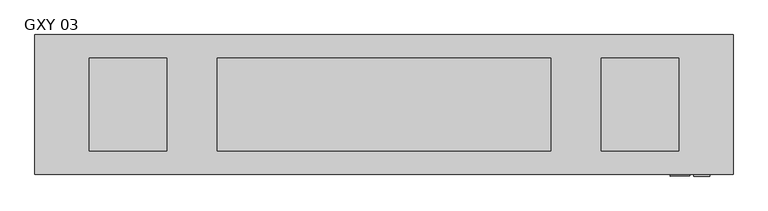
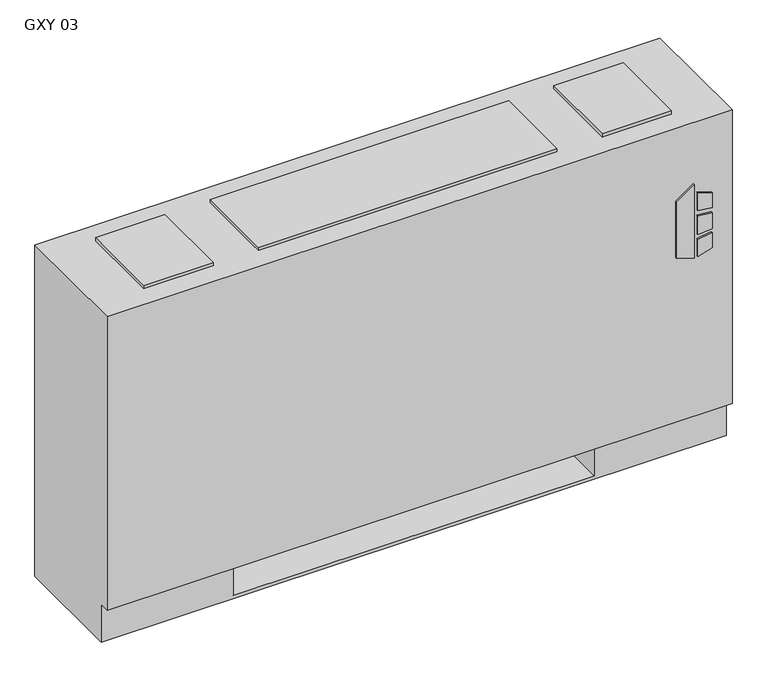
"""IFC4 building model written with IfcOpenShell, lengths in millimetres: proxy geometry, Vertical_Fan_Coil_Unit_-_GXY_-_IEC_-_2-Pipe_TS-FR_LH_2022 : GXY 03."""

from ifc_helpers import new_model, si_unit, point, frame, frame_2d, origin, place, context, project, spatial, polyline, circle_curve, trimmed, segment, composite_curve, outline, extrude, source, transform, mapped, element, save
from ifc_brep_helpers import plane_surface, revolved_surface, advanced_brep


def gxy_03_8c3c5e44(model_context):
    return source(origin(), model_context, "Body", "SolidModel", [
        extrude(outline(polyline([(391.6086829, 620.7868862), (381.6606126, 652.9602728), (523.831537, 652.9602728), (500.8095309, 620.7868862), (391.6086829, 620.7868862)])), frame((0.0, 12.7, 0.0), z_axis=(0.0, 1.0, 0.0), x_axis=(0.0, 0.0, 1.0)), (0.0, 0.0, 1.0), 3.175),
        extrude(outline(polyline([(470.6079683, 659.7186058), (467.4055757, 685.8), (496.6344168, 685.8), (504.6988318, 659.7186058), (470.6079683, 659.7186058)])), frame((0.0, 12.7, 0.0), z_axis=(0.0, 1.0, 0.0), x_axis=(0.0, 0.0, 1.0)), (0.0, 0.0, 1.0), 3.175),
        extrude(outline(polyline([(418.7444414, 685.8), (415.0789404, 659.7186058), (381.6606126, 659.7186058), (390.2948498, 685.8), (418.7444414, 685.8)])), frame((0.0, 12.7, 0.0), z_axis=(0.0, 1.0, 0.0), x_axis=(0.0, 0.0, 1.0)), (0.0, 0.0, 1.0), 3.175),
        extrude(outline(polyline([(458.0596028, 685.8), (460.3414292, 659.7186058), (424.4038806, 659.7186058), (427.1451456, 685.8), (458.0596028, 685.8)])), frame((0.0, 12.7, 0.0), z_axis=(0.0, 1.0, 0.0), x_axis=(0.0, 0.0, 1.0)), (0.0, 0.0, 1.0), 3.175),
        extrude(outline(polyline([(482.6, 81.534), (482.6, 223.266), (603.25, 223.266), (603.25, 81.534), (482.6, 81.534)])), frame((0.0, 0.0, 327.025), z_axis=(0.0, 0.0, 1.0), x_axis=(1.0, 0.0, 0.0)), (0.0, 0.0, 1.0), 260.35),
        extrude(outline(polyline([(-203.2, 206.375), (-203.2, 53.975), (-330.2, 53.975), (-330.2, 206.375), (-203.2, 206.375)])), frame((0.0, 0.0, 641.35), z_axis=(0.0, 0.0, 1.0), x_axis=(1.0, 0.0, 0.0)), (0.0, 0.0, 1.0), 6.35),
        extrude(outline(polyline([(635.0, 206.375), (635.0, 53.975), (508.0, 53.975), (508.0, 206.375), (635.0, 206.375)])), frame((0.0, 0.0, 641.35), z_axis=(0.0, 0.0, 1.0), x_axis=(1.0, 0.0, 0.0)), (0.0, 0.0, 1.0), 6.35),
        extrude(outline(composite_curve([segment(trimmed(circle_curve(frame_2d((78.9432, 398.5514)), 7.9375), [point((78.9432, 406.4889))], [point((78.9432, 390.6139))], False, "CARTESIAN"), True, "CONTINUOUS"), segment(trimmed(circle_curve(frame_2d((78.9432, 398.5514)), 7.9375), [point((78.9432, 390.6139))], [point((78.9432, 406.4889))], False, "CARTESIAN"), True, "CONTINUOUS")], self_intersect=False)), frame((-228.6, 0.0, 0.0), z_axis=(1.0, 0.0, 0.0), x_axis=(0.0, 1.0, 0.0)), (0.0, 0.0, 1.0), 50.8),
        extrude(outline(composite_curve([segment(trimmed(circle_curve(frame_2d((155.9052, 537.3878)), 7.9375), [point((155.9052, 545.3253))], [point((155.9052, 529.4503))], False, "CARTESIAN"), True, "CONTINUOUS"), segment(trimmed(circle_curve(frame_2d((155.9052, 537.3878)), 7.9375), [point((155.9052, 529.4503))], [point((155.9052, 545.3253))], False, "CARTESIAN"), True, "CONTINUOUS")], self_intersect=False)), frame((-228.6, 0.0, 0.0), z_axis=(1.0, 0.0, 0.0), x_axis=(0.0, 1.0, 0.0)), (0.0, 0.0, 1.0), 50.8),
        advanced_brep(
        [(723.9, 244.475, 641.35), (-419.1, 244.475, 641.35), (-419.1, 15.875, 641.35), (723.9, 15.875, 641.35), (-419.1, 244.475, 0.0), (723.9, 244.475, 0.0), (723.9, 34.925, 0.0), (-419.1, 34.925, 0.0), (482.6, 244.475, 73.025), (711.2, 244.475, 73.025), (711.2, 244.475, 628.65), (482.6, 244.475, 628.65), (482.6, 244.475, 418.0400565), (511.175, 244.475, 418.0400565), (511.175, 244.475, 388.4099435), (482.6, 244.475, 388.4099435), (482.6, 244.475, 290.5125), (511.175, 244.475, 290.5125), (511.175, 244.475, 261.9375), (482.6, 244.475, 261.9375), (482.6, 244.475, 119.0625), (511.175, 244.475, 119.0625), (511.175, 244.475, 90.4875), (482.6, 244.475, 90.4875), (-177.8, 244.475, 628.65), (-406.4, 244.475, 628.65), (-406.4, 244.475, 73.025), (-177.8, 244.475, 73.025), (-177.8, 244.475, 90.4875), (-206.375, 244.475, 90.4875), (-206.375, 244.475, 119.0625), (-177.8, 244.475, 119.0625), (-177.8, 244.475, 261.9375), (-206.375, 244.475, 261.9375), (-206.375, 244.475, 290.5125), (-177.8, 244.475, 290.5125), (-177.8, 244.475, 388.4099435), (-206.375, 244.475, 388.4099435), (-206.375, 244.475, 418.0400565), (-177.8, 244.475, 418.0400565), (500.8626, 244.475, 104.775), (489.7374, 244.475, 104.775), (500.8626, 244.475, 403.225), (489.7374, 244.475, 403.225), (500.8626, 244.475, 276.225), (489.7374, 244.475, 276.225), (-184.9374, 244.475, 104.775), (-196.0626, 244.475, 104.775), (-184.9374, 244.475, 276.225), (-196.0626, 244.475, 276.225), (-184.9374, 244.475, 403.225), (-196.0626, 244.475, 403.225), (-419.1, 34.925, 73.025), (-419.1, 15.875, 73.025), (723.9, 15.875, 73.025), (723.9, 34.925, 73.025), (-177.8, 34.925, 73.025), (-177.8, 219.075, 73.025), (482.6, 219.075, 73.025), (482.6, 34.925, 73.025), (482.6, 34.925, 6.35), (-177.8, 34.925, 6.35), (482.6, 41.275, 628.65), (711.2, 41.275, 628.65), (711.2, 41.275, 73.025), (482.6, 41.275, 73.025), (-177.8, 41.275, 628.65), (-177.8, 41.275, 73.025), (-406.4, 41.275, 73.025), (-406.4, 41.275, 628.65), (482.6, 219.075, 73.025), (482.6, 238.125, 90.4875), (482.6, 238.125, 119.0625), (482.6, 238.125, 261.9375), (482.6, 238.125, 290.5125), (482.6, 238.125, 388.4099435), (482.6, 238.125, 418.0400565), (-177.8, 219.075, 73.025), (-177.8, 238.125, 418.0400565), (-177.8, 238.125, 388.4099435), (-177.8, 238.125, 290.5125), (-177.8, 238.125, 261.9375), (-177.8, 238.125, 119.0625), (-177.8, 238.125, 90.4875), (-177.8, 219.075, 6.35), (482.6, 219.075, 6.35), (511.175, 238.125, 90.4875), (511.175, 238.125, 119.0625), (489.7374, 238.125, 104.775), (500.8626, 238.125, 104.775), (511.175, 238.125, 261.9375), (511.175, 238.125, 290.5125), (489.7374, 238.125, 276.225), (500.8626, 238.125, 276.225), (511.175, 238.125, 388.4099435), (511.175, 238.125, 418.0400565), (489.7374, 238.125, 403.225), (500.8626, 238.125, 403.225), (-206.375, 238.125, 119.0625), (-206.375, 238.125, 90.4875), (-196.0626, 238.125, 104.775), (-184.9374, 238.125, 104.775), (-206.375, 238.125, 290.5125), (-206.375, 238.125, 261.9375), (-196.0626, 238.125, 276.225), (-184.9374, 238.125, 276.225), (-206.375, 238.125, 418.0400565), (-206.375, 238.125, 388.4099435), (-196.0626, 238.125, 403.225), (-184.9374, 238.125, 403.225)],
        [
            (0, 1),
            (1, 2),
            (2, 3),
            (3, 0),
            (4, 5),
            (5, 6),
            (6, 7),
            (7, 4),
            (0, 5),
            (4, 1),
            (8, 9),
            (9, 10),
            (10, 11),
            (11, 12),
            (12, 13),
            (13, 14),
            (14, 15),
            (15, 16),
            (16, 17),
            (17, 18),
            (18, 19),
            (19, 20),
            (20, 21),
            (21, 22),
            (22, 23),
            (23, 8),
            (24, 25),
            (25, 26),
            (26, 27),
            (27, 28),
            (28, 29),
            (29, 30),
            (30, 31),
            (31, 32),
            (32, 33),
            (33, 34),
            (34, 35),
            (35, 36),
            (36, 37),
            (37, 38),
            (38, 39),
            (39, 24),
            (40, 41, circle_curve(frame((495.3, 244.475, 104.775), z_axis=(0.0, -1.0, 0.0), x_axis=(-1.0, 0.0, 0.0)), 5.5626)),
            (41, 40, circle_curve(frame((495.3, 244.475, 104.775), z_axis=(0.0, -1.0, 0.0), x_axis=(-1.0, 0.0, 0.0)), 5.5626)),
            (42, 43, circle_curve(frame((495.3, 244.475, 403.225), z_axis=(0.0, -1.0, 0.0), x_axis=(-1.0, 0.0, 0.0)), 5.5626)),
            (43, 42, circle_curve(frame((495.3, 244.475, 403.225), z_axis=(0.0, -1.0, 0.0), x_axis=(-1.0, 0.0, 0.0)), 5.5626)),
            (44, 45, circle_curve(frame((495.3, 244.475, 276.225), z_axis=(0.0, -1.0, 0.0), x_axis=(-1.0, 0.0, 0.0)), 5.5626)),
            (45, 44, circle_curve(frame((495.3, 244.475, 276.225), z_axis=(0.0, -1.0, 0.0), x_axis=(-1.0, 0.0, 0.0)), 5.5626)),
            (46, 47, circle_curve(frame((-190.5, 244.475, 104.775), z_axis=(0.0, -1.0, 0.0), x_axis=(-1.0, 0.0, 0.0)), 5.5626)),
            (47, 46, circle_curve(frame((-190.5, 244.475, 104.775), z_axis=(0.0, -1.0, 0.0), x_axis=(-1.0, 0.0, 0.0)), 5.5626)),
            (48, 49, circle_curve(frame((-190.5, 244.475, 276.225), z_axis=(0.0, -1.0, 0.0), x_axis=(-1.0, 0.0, 0.0)), 5.5626)),
            (49, 48, circle_curve(frame((-190.5, 244.475, 276.225), z_axis=(0.0, -1.0, 0.0), x_axis=(-1.0, 0.0, 0.0)), 5.5626)),
            (50, 51, circle_curve(frame((-190.5, 244.475, 403.225), z_axis=(0.0, -1.0, 0.0), x_axis=(-1.0, 0.0, 0.0)), 5.5626)),
            (51, 50, circle_curve(frame((-190.5, 244.475, 403.225), z_axis=(0.0, -1.0, 0.0), x_axis=(-1.0, 0.0, 0.0)), 5.5626)),
            (7, 52),
            (52, 53),
            (53, 2),
            (53, 54),
            (54, 3),
            (54, 55),
            (55, 6),
            (52, 56),
            (56, 57),
            (57, 58),
            (58, 59),
            (59, 55),
            (59, 60),
            (60, 61),
            (61, 56),
            (62, 63),
            (63, 64),
            (64, 65),
            (65, 62),
            (66, 67),
            (67, 68),
            (68, 69),
            (69, 66),
            (65, 70),
            (70, 8),
            (23, 71),
            (71, 72),
            (72, 20),
            (19, 73),
            (73, 74),
            (74, 16),
            (15, 75),
            (75, 76),
            (76, 12),
            (11, 62),
            (64, 9),
            (63, 10),
            (69, 25),
            (24, 66),
            (68, 26),
            (67, 77),
            (77, 27),
            (39, 78),
            (78, 79),
            (79, 36),
            (35, 80),
            (80, 81),
            (81, 32),
            (31, 82),
            (82, 83),
            (83, 28),
            (57, 84),
            (84, 85),
            (85, 58),
            (85, 60),
            (84, 61),
            (71, 86),
            (86, 87),
            (87, 72),
            (88, 89, circle_curve(frame((495.3, 238.125, 104.775), z_axis=(0.0, 1.0, 0.0), x_axis=(-1.0, 0.0, 0.0)), 5.5626)),
            (89, 88, circle_curve(frame((495.3, 238.125, 104.775), z_axis=(0.0, 1.0, 0.0), x_axis=(-1.0, 0.0, 0.0)), 5.5626)),
            (73, 90),
            (90, 91),
            (91, 74),
            (92, 93, circle_curve(frame((495.3, 238.125, 276.225), z_axis=(0.0, 1.0, 0.0), x_axis=(-1.0, 0.0, 0.0)), 5.5626)),
            (93, 92, circle_curve(frame((495.3, 238.125, 276.225), z_axis=(0.0, 1.0, 0.0), x_axis=(-1.0, 0.0, 0.0)), 5.5626)),
            (75, 94),
            (94, 95),
            (95, 76),
            (96, 97, circle_curve(frame((495.3, 238.125, 403.225), z_axis=(0.0, 1.0, 0.0), x_axis=(-1.0, 0.0, 0.0)), 5.5626)),
            (97, 96, circle_curve(frame((495.3, 238.125, 403.225), z_axis=(0.0, 1.0, 0.0), x_axis=(-1.0, 0.0, 0.0)), 5.5626)),
            (98, 99),
            (99, 83),
            (82, 98),
            (100, 101, circle_curve(frame((-190.5, 238.125, 104.775), z_axis=(0.0, 1.0, 0.0), x_axis=(-1.0, 0.0, 0.0)), 5.5626)),
            (101, 100, circle_curve(frame((-190.5, 238.125, 104.775), z_axis=(0.0, 1.0, 0.0), x_axis=(-1.0, 0.0, 0.0)), 5.5626)),
            (102, 103),
            (103, 81),
            (80, 102),
            (104, 105, circle_curve(frame((-190.5, 238.125, 276.225), z_axis=(0.0, 1.0, 0.0), x_axis=(-1.0, 0.0, 0.0)), 5.5626)),
            (105, 104, circle_curve(frame((-190.5, 238.125, 276.225), z_axis=(0.0, 1.0, 0.0), x_axis=(-1.0, 0.0, 0.0)), 5.5626)),
            (106, 107),
            (107, 79),
            (78, 106),
            (108, 109, circle_curve(frame((-190.5, 238.125, 403.225), z_axis=(0.0, 1.0, 0.0), x_axis=(-1.0, 0.0, 0.0)), 5.5626)),
            (109, 108, circle_curve(frame((-190.5, 238.125, 403.225), z_axis=(0.0, 1.0, 0.0), x_axis=(-1.0, 0.0, 0.0)), 5.5626)),
            (87, 21),
            (86, 22),
            (91, 17),
            (90, 18),
            (95, 13),
            (94, 14),
            (30, 98),
            (99, 29),
            (34, 102),
            (103, 33),
            (38, 106),
            (107, 37),
            (88, 41),
            (40, 89),
            (96, 43),
            (42, 97),
            (92, 45),
            (44, 93),
            (100, 47),
            (46, 101),
            (104, 49),
            (48, 105),
            (108, 51),
            (50, 109),
        ],
        [
            plane_surface(frame((-419.1, 244.475, 641.35), z_axis=(0.0, 0.0, 1.0), x_axis=(-1.0, 0.0, 0.0))),
            plane_surface(frame((-419.1, 244.475, 0.0), z_axis=(0.0, 0.0, -1.0), x_axis=(1.0, 0.0, 0.0))),
            plane_surface(frame((723.9, 244.475, 641.35), z_axis=(0.0, 1.0, 0.0), x_axis=(0.0, 0.0, -1.0))),
            plane_surface(frame((-419.1, 244.475, 641.35), z_axis=(-1.0, 0.0, 0.0), x_axis=(0.0, 0.0, -1.0))),
            plane_surface(frame((-419.1, 15.875, 641.35), z_axis=(0.0, -1.0, 0.0), x_axis=(0.0, 0.0, -1.0))),
            plane_surface(frame((723.9, 15.875, 641.35), z_axis=(1.0, 0.0, 0.0), x_axis=(0.0, 0.0, -1.0))),
            plane_surface(frame((-419.1, 15.875, 73.025), z_axis=(0.0, 0.0, -1.0), x_axis=(1.0, 0.0, 0.0))),
            plane_surface(frame((-419.1, 34.925, 73.025), z_axis=(0.0, -1.0, 0.0), x_axis=(1.0, 0.0, 0.0))),
            plane_surface(frame((482.6, 41.275, 628.65), z_axis=(0.0, 1.0, 0.0), x_axis=(0.0, 0.0, -1.0))),
            plane_surface(frame((482.6, 41.275, 628.65), z_axis=(1.0, 0.0, 0.0), x_axis=(0.0, 1.0, 0.0))),
            plane_surface(frame((482.6, 41.275, 73.025), z_axis=(0.0, 0.0, 1.0), x_axis=(0.0, 1.0, 0.0))),
            plane_surface(frame((711.2, 41.275, 73.025), z_axis=(-1.0, 0.0, 0.0), x_axis=(0.0, 1.0, 0.0))),
            plane_surface(frame((711.2, 41.275, 628.65), z_axis=(0.0, 0.0, -1.0), x_axis=(0.0, 1.0, 0.0))),
            plane_surface(frame((-177.8, 41.275, 628.65), z_axis=(0.0, 0.0, -1.0), x_axis=(0.0, 1.0, 0.0))),
            plane_surface(frame((-406.4, 41.275, 628.65), z_axis=(1.0, 0.0, 0.0), x_axis=(0.0, 1.0, 0.0))),
            plane_surface(frame((-406.4, 41.275, 73.025), z_axis=(0.0, 0.0, 1.0), x_axis=(0.0, 1.0, 0.0))),
            plane_surface(frame((-177.8, 41.275, 73.025), z_axis=(-1.0, 0.0, 0.0), x_axis=(0.0, 1.0, 0.0))),
            plane_surface(frame((482.6, 219.075, 73.025), z_axis=(0.0, -1.0, 0.0), x_axis=(0.0, 0.0, -1.0))),
            plane_surface(frame((482.6, 219.075, 73.025), z_axis=(-1.0, 0.0, 0.0), x_axis=(0.0, -1.0, 0.0))),
            plane_surface(frame((482.6, 219.075, 6.35), z_axis=(0.0, 0.0, 1.0), x_axis=(0.0, -1.0, 0.0))),
            plane_surface(frame((-177.8, 219.075, 6.35), z_axis=(1.0, 0.0, 0.0), x_axis=(0.0, -1.0, 0.0))),
            plane_surface(frame((511.175, 238.125, 119.0625), z_axis=(0.0, -1.0, 0.0), x_axis=(-1.0, 0.0, 0.0))),
            plane_surface(frame((482.6, 244.475, 119.0625), z_axis=(0.0, 0.0, 1.0), x_axis=(0.0, -1.0, 0.0))),
            plane_surface(frame((511.175, 244.475, 119.0625), z_axis=(1.0, 0.0, 0.0), x_axis=(0.0, -1.0, 0.0))),
            plane_surface(frame((511.175, 244.475, 90.4875), z_axis=(0.0, 0.0, -1.0), x_axis=(0.0, -1.0, 0.0))),
            plane_surface(frame((482.6, 244.475, 290.5125), z_axis=(0.0, 0.0, 1.0), x_axis=(0.0, -1.0, 0.0))),
            plane_surface(frame((511.175, 244.475, 290.5125), z_axis=(1.0, 0.0, 0.0), x_axis=(0.0, -1.0, 0.0))),
            plane_surface(frame((511.175, 244.475, 261.9375), z_axis=(0.0, 0.0, -1.0), x_axis=(0.0, -1.0, 0.0))),
            plane_surface(frame((482.6, 244.475, 418.0400565), z_axis=(0.0, 0.0, 1.0), x_axis=(0.0, -1.0, 0.0))),
            plane_surface(frame((511.175, 244.475, 418.0400565), z_axis=(1.0, 0.0, 0.0), x_axis=(0.0, -1.0, 0.0))),
            plane_surface(frame((511.175, 244.475, 388.4099435), z_axis=(0.0, 0.0, -1.0), x_axis=(0.0, -1.0, 0.0))),
            plane_surface(frame((-206.375, 244.475, 119.0625), z_axis=(0.0, 0.0, 1.0), x_axis=(0.0, -1.0, 0.0))),
            plane_surface(frame((-177.8, 244.475, 90.4875), z_axis=(0.0, 0.0, -1.0), x_axis=(0.0, -1.0, 0.0))),
            plane_surface(frame((-206.375, 244.475, 90.4875), z_axis=(-1.0, 0.0, 0.0), x_axis=(0.0, -1.0, 0.0))),
            plane_surface(frame((-206.375, 244.475, 290.5125), z_axis=(0.0, 0.0, 1.0), x_axis=(0.0, -1.0, 0.0))),
            plane_surface(frame((-177.8, 244.475, 261.9375), z_axis=(0.0, 0.0, -1.0), x_axis=(0.0, -1.0, 0.0))),
            plane_surface(frame((-206.375, 244.475, 261.9375), z_axis=(-1.0, 0.0, 0.0), x_axis=(0.0, -1.0, 0.0))),
            plane_surface(frame((-206.375, 244.475, 418.0400565), z_axis=(0.0, 0.0, 1.0), x_axis=(0.0, -1.0, 0.0))),
            plane_surface(frame((-177.8, 244.475, 388.4099435), z_axis=(0.0, 0.0, -1.0), x_axis=(0.0, -1.0, 0.0))),
            plane_surface(frame((-206.375, 244.475, 388.4099435), z_axis=(-1.0, 0.0, 0.0), x_axis=(0.0, -1.0, 0.0))),
            revolved_surface(polyline([(489.73740000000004, 238.125, 104.775), (489.73740000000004, 244.475, 104.775)]), (495.3, 244.475, 104.775), (0.0, -1.0, 0.0)),
            revolved_surface(polyline([(489.73740000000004, 238.125, 403.225), (489.73740000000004, 244.475, 403.225)]), (495.3, 244.475, 403.225), (0.0, -1.0, 0.0)),
            revolved_surface(polyline([(489.73740000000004, 238.125, 276.225), (489.73740000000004, 244.475, 276.225)]), (495.3, 244.475, 276.225), (0.0, -1.0, 0.0)),
            revolved_surface(polyline([(-196.0626, 238.125, 104.775), (-196.0626, 244.475, 104.775)]), (-190.5, 244.475, 104.775), (0.0, -1.0, 0.0)),
            revolved_surface(polyline([(-196.0626, 238.125, 276.225), (-196.0626, 244.475, 276.225)]), (-190.5, 244.475, 276.225), (0.0, -1.0, 0.0)),
            revolved_surface(polyline([(-196.0626, 238.125, 403.225), (-196.0626, 244.475, 403.225)]), (-190.5, 244.475, 403.225), (0.0, -1.0, 0.0)),
        ],
        [
            (0, [[1, 2, 3, 4]]),
            (1, [[5, 6, 7, 8]]),
            (2, [[-1, 9, -5, 10], [11, 12, 13, 14, 15, 16, 17, 18, 19, 20, 21, 22, 23, 24, 25, 26], [27, 28, 29, 30, 31, 32, 33, 34, 35, 36, 37, 38, 39, 40, 41, 42], [43, 44], [45, 46], [47, 48], [49, 50], [51, 52], [53, 54]]),
            (3, [[-2, -10, -8, 55, 56, 57]]),
            (4, [[-3, -57, 58, 59]]),
            (5, [[-4, -59, 60, 61, -6, -9]]),
            (6, [[-56, 62, 63, 64, 65, 66, -60, -58]]),
            (7, [[-7, -61, -66, 67, 68, 69, -62, -55]]),
            (8, [[70, 71, 72, 73]]),
            (8, [[74, 75, 76, 77]]),
            (9, [[-73, 78, 79, -26, 80, 81, 82, -22, 83, 84, 85, -18, 86, 87, 88, -14, 89]]),
            (10, [[-72, 90, -11, -79, -78]]),
            (11, [[-71, 91, -12, -90]]),
            (12, [[-70, -89, -13, -91]]),
            (13, [[-77, 92, -27, 93]]),
            (14, [[-76, 94, -28, -92]]),
            (15, [[-75, 95, 96, -29, -94]]),
            (16, [[-74, -93, -42, 97, 98, 99, -38, 100, 101, 102, -34, 103, 104, 105, -30, -96, -95]]),
            (17, [[-64, 106, 107, 108]]),
            (18, [[-108, 109, -67, -65]]),
            (19, [[-107, 110, -68, -109]]),
            (20, [[-106, -63, -69, -110]]),
            (21, [[111, 112, 113, -81], [114, 115]]),
            (21, [[116, 117, 118, -84], [119, 120]]),
            (21, [[121, 122, 123, -87], [124, 125]]),
            (21, [[126, 127, -104, 128], [129, 130]]),
            (21, [[131, 132, -101, 133], [134, 135]]),
            (21, [[136, 137, -98, 138], [139, 140]]),
            (22, [[-113, 141, -23, -82]]),
            (23, [[-112, 142, -24, -141]]),
            (24, [[-111, -80, -25, -142]]),
            (25, [[-118, 143, -19, -85]]),
            (26, [[-117, 144, -20, -143]]),
            (27, [[-116, -83, -21, -144]]),
            (28, [[-123, 145, -15, -88]]),
            (29, [[-122, 146, -16, -145]]),
            (30, [[-121, -86, -17, -146]]),
            (31, [[-128, -103, -33, 147]]),
            (32, [[-127, 148, -31, -105]]),
            (33, [[-126, -147, -32, -148]]),
            (34, [[-133, -100, -37, 149]]),
            (35, [[-132, 150, -35, -102]]),
            (36, [[-131, -149, -36, -150]]),
            (37, [[-138, -97, -41, 151]]),
            (38, [[-137, 152, -39, -99]]),
            (39, [[-136, -151, -40, -152]]),
            (40, [[153, -43, 154, -114]]),
            (40, [[-153, -115, -154, -44]]),
            (41, [[155, -45, 156, -124]]),
            (41, [[-155, -125, -156, -46]]),
            (42, [[157, -47, 158, -119]]),
            (42, [[-157, -120, -158, -48]]),
            (43, [[159, -49, 160, -129]]),
            (43, [[-159, -130, -160, -50]]),
            (44, [[161, -51, 162, -134]]),
            (44, [[-161, -135, -162, -52]]),
            (45, [[163, -53, 164, -139]]),
            (45, [[-163, -140, -164, -54]]),
        ],
    ),
        extrude(outline(polyline([(425.45, 206.375), (425.45, 53.975), (-120.65, 53.975), (-120.65, 206.375), (425.45, 206.375)])), frame((0.0, 0.0, 641.35), z_axis=(0.0, 0.0, 1.0), x_axis=(1.0, 0.0, 0.0)), (0.0, 0.0, 1.0), 6.35),
    ])


if __name__ == "__main__":
    model = new_model("IFC4")
    model_context = context("Model", 3, world=origin())
    ifc_project = project(units=[si_unit("LENGTHUNIT", "METRE", prefix="MILLI")], contexts=[model_context])
    site = spatial("IfcSite", under=ifc_project)
    building = spatial("IfcBuilding", under=site)
    placement = place(None, origin())
    gxy_03_shape = gxy_03_8c3c5e44(model_context)
    element("IfcBuildingElementProxy", 1, Name="Vertical_Fan_Coil_Unit_-_GXY_-_IEC_-_2-Pipe_TS-FR_LH_2022 : GXY 03", ObjectType="Vertical_Fan_Coil_Unit_-_GXY_-_IEC_-_2-Pipe_TS-FR_LH_2022 : GXY 03", at=placement, inside=building, context=model_context, shape_type="MappedRepresentation", body=[
        mapped(gxy_03_shape, transform((0.0, 0.0, 0.0), x_axis=(1.0, 0.0, 0.0), y_axis=(0.0, 1.0, 0.0), z_axis=(0.0, 0.0, 1.0))),
    ])
    save(model, "model.ifc")
